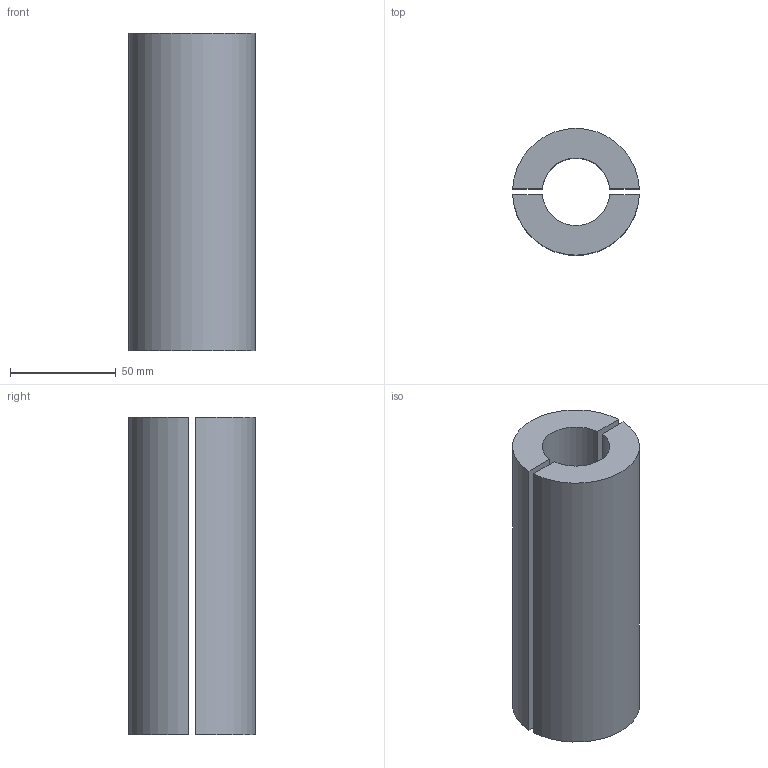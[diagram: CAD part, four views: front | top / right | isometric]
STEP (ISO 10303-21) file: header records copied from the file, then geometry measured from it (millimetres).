
FILE_DESCRIPTION( (''), '2;1');
FILE_NAME ('SY-2085-00_HS-0000.stp','2022-04-10T00:26:53',(''),(''),'spGate 18.9.3 (****-****-****-****)','','');
FILE_SCHEMA (('AUTOMOTIVE_DESIGN'));
Length unit declared in the file: millimetre
Products named in the file (3): Assembly; SY-2085-00_HS-0000-prt0; SY-2085-00_HS-0000-prt1
Assembly tree (2 placements, depth 2):
  Assembly
    SY-2085-00_HS-0000-prt0
    SY-2085-00_HS-0000-prt1
Bounding box: 59.92 x 60 x 150 mm (x, y, z)
Volume: 290868 mm3; surface area: 53850.3 mm2
Topology: 2 solids, 2 shells, 12 faces, 24 edges, 16 vertices
Faces by surface type: plane 8, cylinder 4
Entity records: 610 total; most frequent: DIRECTION 68, CARTESIAN_POINT 58, ORIENTED_EDGE 48, COLOUR_RGB 38, PRESENTATION_STYLE_ASSIGNMENT 38, STYLED_ITEM 38, AXIS2_PLACEMENT_3D 26, EDGE_CURVE 24
